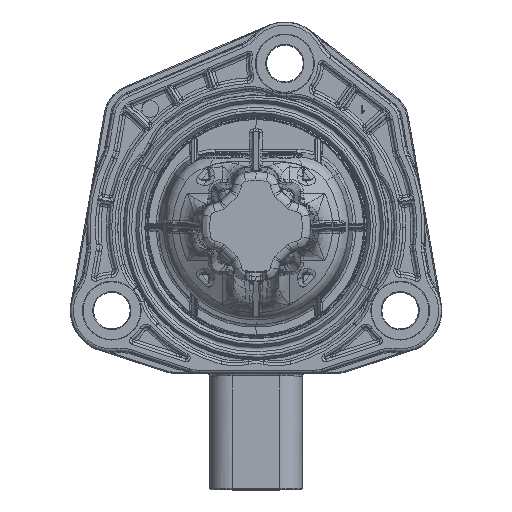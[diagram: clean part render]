
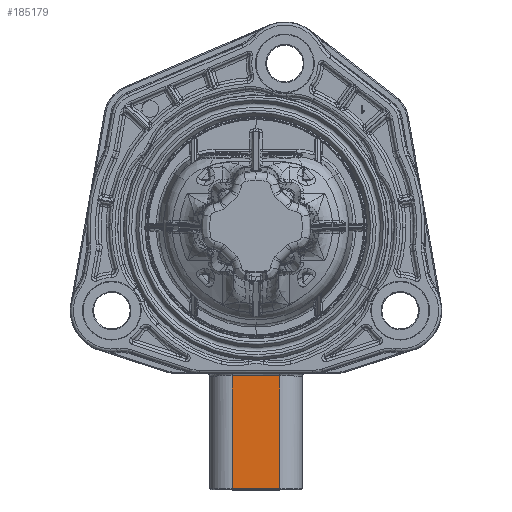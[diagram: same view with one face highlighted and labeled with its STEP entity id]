
A CAD part, top view. The second image highlights one B-rep face of the part: STEP entity #185179.
In plain terms, the highlighted planar face has unit normal (0, 0, 1).
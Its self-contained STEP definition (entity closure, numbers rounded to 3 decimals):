
#185158=AXIS2_PLACEMENT_3D('Plane Axis2P3D',#185155,#185156,#185157) ;
#171428=CARTESIAN_POINT('Vertex',(-4.25,-26.771,-2.35)) ;
#171450=CARTESIAN_POINT('Line Origine',(0.,-26.771,-2.35)) ;
#171454=CARTESIAN_POINT('Vertex',(4.25,-26.771,-2.35)) ;
#185132=CARTESIAN_POINT('Vertex',(-4.25,-47.066,-2.35)) ;
#185135=CARTESIAN_POINT('Line Origine',(-4.25,-29.316,-2.35)) ;
#185139=CARTESIAN_POINT('Vertex',(-4.25,-39.816,-2.35)) ;
#185142=CARTESIAN_POINT('Line Origine',(-4.25,-29.316,-2.35)) ;
#185155=CARTESIAN_POINT('Axis2P3D Location',(-4.25,-38.816,-2.35)) ;
#185160=CARTESIAN_POINT('Line Origine',(0.,-47.066,-2.35)) ;
#185164=CARTESIAN_POINT('Vertex',(4.25,-47.066,-2.35)) ;
#185167=CARTESIAN_POINT('Line Origine',(4.25,-36.918,-2.35)) ;
#171451=DIRECTION('Vector Direction',(-1.,0.,0.)) ;
#185136=DIRECTION('Vector Direction',(0.,-1.,0.)) ;
#185143=DIRECTION('Vector Direction',(0.,-1.,0.)) ;
#185156=DIRECTION('Axis2P3D Direction',(0.,0.,-1.)) ;
#185157=DIRECTION('Axis2P3D XDirection',(1.,0.,0.)) ;
#185161=DIRECTION('Vector Direction',(1.,0.,0.)) ;
#185168=DIRECTION('Vector Direction',(0.,-1.,0.)) ;
#171452=VECTOR('Line Direction',#171451,1.) ;
#185137=VECTOR('Line Direction',#185136,1.) ;
#185144=VECTOR('Line Direction',#185143,1.) ;
#185162=VECTOR('Line Direction',#185161,1.) ;
#185169=VECTOR('Line Direction',#185168,1.) ;
#185173=ORIENTED_EDGE('',*,*,#171456,.T.) ;
#185174=ORIENTED_EDGE('',*,*,#185146,.T.) ;
#185175=ORIENTED_EDGE('',*,*,#185141,.T.) ;
#185176=ORIENTED_EDGE('',*,*,#185166,.T.) ;
#185177=ORIENTED_EDGE('',*,*,#185171,.F.) ;
#185179=ADVANCED_FACE('RG_Angebotsgeometrie Commodity / RG_quotation geometry Commodity',(#185178),#185159,.F.) ;
#171456=EDGE_CURVE('',#171455,#171429,#171453,.T.) ;
#185141=EDGE_CURVE('',#185140,#185133,#185138,.T.) ;
#185146=EDGE_CURVE('',#171429,#185140,#185145,.T.) ;
#185166=EDGE_CURVE('',#185133,#185165,#185163,.T.) ;
#185171=EDGE_CURVE('',#171455,#185165,#185170,.T.) ;
#185172=EDGE_LOOP('',(#185173,#185174,#185175,#185176,#185177)) ;
#185178=FACE_OUTER_BOUND('',#185172,.T.) ;
#171453=LINE('Line',#171450,#171452) ;
#185138=LINE('Line',#185135,#185137) ;
#185145=LINE('Line',#185142,#185144) ;
#185163=LINE('Line',#185160,#185162) ;
#185170=LINE('Line',#185167,#185169) ;
#185159=PLANE('',#185158) ;
#171429=VERTEX_POINT('',#171428) ;
#171455=VERTEX_POINT('',#171454) ;
#185133=VERTEX_POINT('',#185132) ;
#185140=VERTEX_POINT('',#185139) ;
#185165=VERTEX_POINT('',#185164) ;
